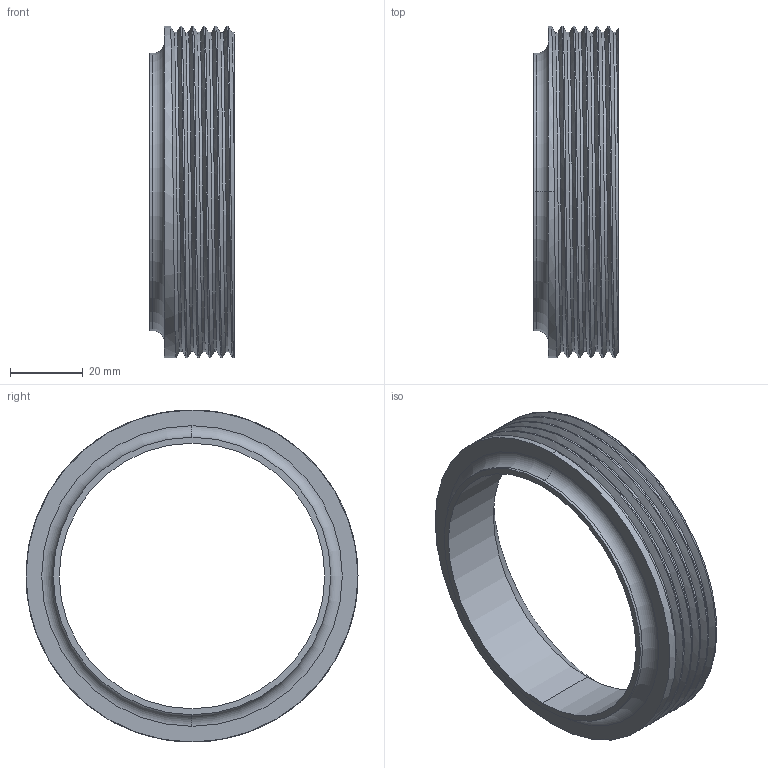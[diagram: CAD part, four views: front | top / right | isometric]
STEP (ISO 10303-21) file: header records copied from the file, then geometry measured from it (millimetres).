
FILE_DESCRIPTION (( 'STEP AP214' ), '1' );
FILE_NAME ('15TR 3.0 REV1.STEP', '2025-08-08T14:55:27', ( '' ), ( '' ), 'SwSTEP 2.0', 'SolidWorks 2022', '' );
FILE_SCHEMA (( 'AUTOMOTIVE_DESIGN' ));
Length unit declared in the file: inch
Products named in the file (1): 15TR 3.0 REV1
Bounding box: 23.09 x 91.19 x 91.19 mm (x, y, z)
Volume: 38411.1 mm3; surface area: 18124.7 mm2
Topology: 1 solids, 1 shells, 28 faces, 68 edges, 43 vertices
Faces by surface type: cylinder 17, plane 4, bspline 3, cone 2, torus 2
Entity records: 2957 total; most frequent: CARTESIAN_POINT 2329, ORIENTED_EDGE 136, DIRECTION 106, EDGE_CURVE 68, AXIS2_PLACEMENT_3D 43, VERTEX_POINT 43, EDGE_LOOP 31, FACE_OUTER_BOUND 28
